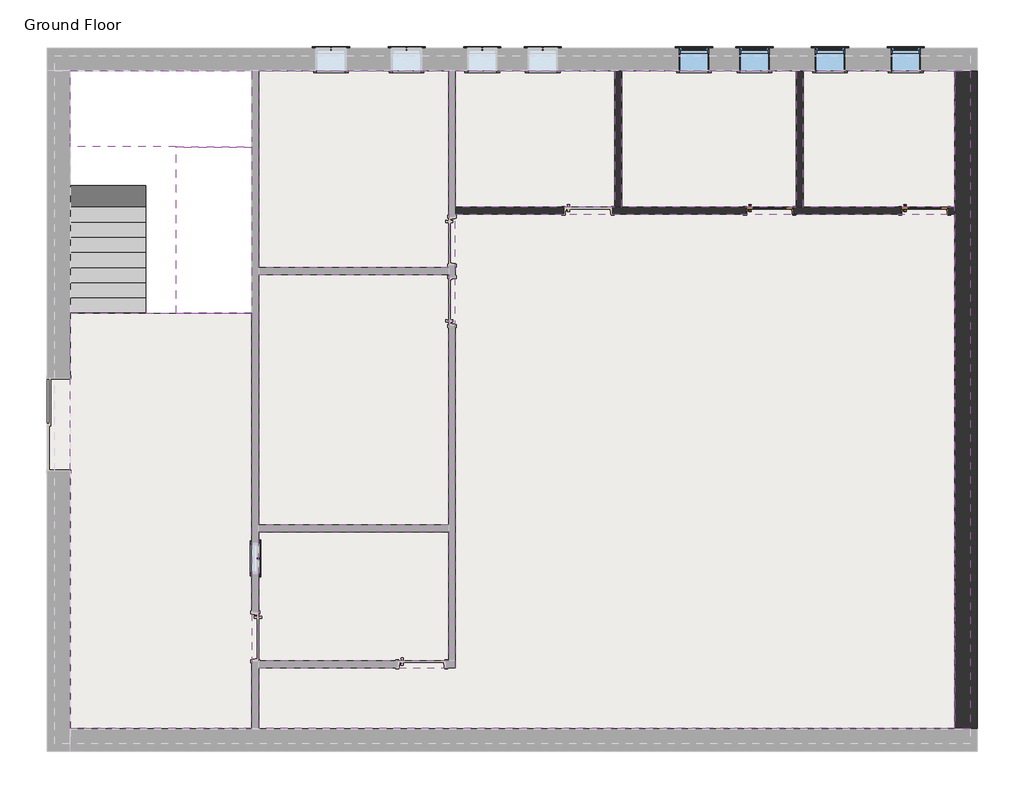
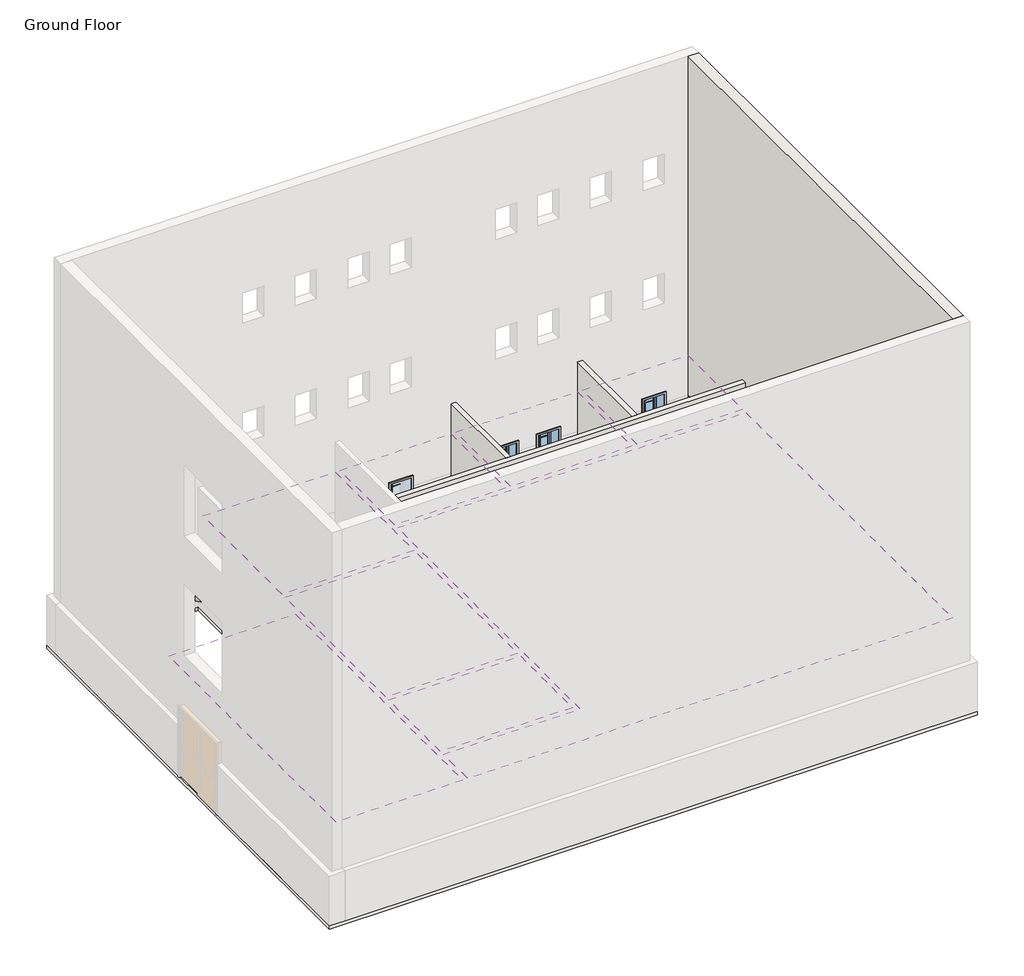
# One storey, part 2 of 2: 27 proxies, 8 coverings, 5 walls, 4 windows, 2 doors, 2 slabs, 2 stair flights.
"""IFC4 building model written with IfcOpenShell, lengths in millimetres."""

from ifc_helpers import new_model, si_unit, frame, origin, origin_with_axes, place, context, project, spatial, polyline, outline, extrude, faceted_brep, transform, mapped, element, save
from components import muntin_pattern_2x2_muntin_pattern_2x2_cf4092f1, muntin_pattern_2x2_muntin_pattern_2x2_49143b38, trim_window_exterior_flat_with_sill_a665a915, trim_window_exterior_flat_with_sill_4c72db77, trim_window_interior_flat_picture_frame_d485c387, trim_window_interior_flat_picture_frame_dfd23ff3, door_918c180d, window_1658a7ae

model = new_model("IFC4")

# Units and contexts
model_context = context("Model", 3, world=origin())
ifc_project = project(units=[si_unit("LENGTHUNIT", "METRE", prefix="MILLI")], contexts=[model_context])

# Site, building, storey
site = spatial("IfcSite", under=ifc_project)
building = spatial("IfcBuilding", under=site)
storey = spatial("IfcBuildingStorey", under=building, Name="Ground Floor", Elevation=0.0)

# Proxies
placement = place(None, origin())
muntin_pattern_2x2_muntin_pattern_2x2_shape = muntin_pattern_2x2_muntin_pattern_2x2_cf4092f1(model_context)
element("IfcBuildingElementProxy", 1, Name="Muntin Pattern_2x2 : Muntin Pattern_2x2", ObjectType="Muntin Pattern_2x2 : Muntin Pattern_2x2", at=placement, inside=storey, context=model_context, shape_type="MappedRepresentation", body=[
    mapped(muntin_pattern_2x2_muntin_pattern_2x2_shape, transform((-14168.6597136, 1858.8705992, 984.25), x_axis=(0.0, -1.0, 0.0), y_axis=(1.0, 0.0, 0.0), z_axis=(0.0, 0.0, 1.0))),
])
element("IfcBuildingElementProxy", 2, Name="Muntin Pattern_2x2 : Muntin Pattern_2x2", ObjectType="Muntin Pattern_2x2 : Muntin Pattern_2x2", at=placement, inside=storey, context=model_context, shape_type="MappedRepresentation", body=[
    mapped(muntin_pattern_2x2_muntin_pattern_2x2_shape, transform((-1122.5847136, 12134.7580992, 984.25), x_axis=(1.0, 0.0, 0.0), y_axis=(0.0, 1.0, 0.0), z_axis=(0.0, 0.0, 1.0))),
])
element("IfcBuildingElementProxy", 3, Name="Muntin Pattern_2x2 : Muntin Pattern_2x2", ObjectType="Muntin Pattern_2x2 : Muntin Pattern_2x2", at=placement, inside=storey, context=model_context, shape_type="MappedRepresentation", body=[
    mapped(muntin_pattern_2x2_muntin_pattern_2x2_shape, transform((-2646.5847136, 12134.7580992, 984.25), x_axis=(1.0, 0.0, 0.0), y_axis=(0.0, 1.0, 0.0), z_axis=(0.0, 0.0, 1.0))),
])
element("IfcBuildingElementProxy", 4, Name="Muntin Pattern_2x2 : Muntin Pattern_2x2", ObjectType="Muntin Pattern_2x2 : Muntin Pattern_2x2", at=placement, inside=storey, context=model_context, shape_type="MappedRepresentation", body=[
    mapped(muntin_pattern_2x2_muntin_pattern_2x2_shape, transform((-4170.5847136, 12134.7580992, 984.25), x_axis=(1.0, 0.0, 0.0), y_axis=(0.0, 1.0, 0.0), z_axis=(0.0, 0.0, 1.0))),
])
element("IfcBuildingElementProxy", 5, Name="Muntin Pattern_2x2 : Muntin Pattern_2x2", ObjectType="Muntin Pattern_2x2 : Muntin Pattern_2x2", at=placement, inside=storey, context=model_context, shape_type="MappedRepresentation", body=[
    mapped(muntin_pattern_2x2_muntin_pattern_2x2_shape, transform((-5389.7847136, 12134.7580992, 984.25), x_axis=(1.0, 0.0, 0.0), y_axis=(0.0, 1.0, 0.0), z_axis=(0.0, 0.0, 1.0))),
])
muntin_pattern_2x2_muntin_pattern_2x2_2_shape = muntin_pattern_2x2_muntin_pattern_2x2_49143b38(model_context)
element("IfcBuildingElementProxy", 6, Name="Muntin Pattern_2x2 : Muntin Pattern_2x2", ObjectType="Muntin Pattern_2x2 : Muntin Pattern_2x2", at=placement, inside=storey, context=model_context, shape_type="MappedRepresentation", body=[
    mapped(muntin_pattern_2x2_muntin_pattern_2x2_2_shape, transform((-12704.9847136, 12134.7580992, 984.25), x_axis=(-1.0, 0.0, 0.0), y_axis=(0.0, -1.0, 0.0), z_axis=(0.0, 0.0, 1.0))),
])
element("IfcBuildingElementProxy", 7, Name="Muntin Pattern_2x2 : Muntin Pattern_2x2", ObjectType="Muntin Pattern_2x2 : Muntin Pattern_2x2", at=placement, inside=storey, context=model_context, shape_type="MappedRepresentation", body=[
    mapped(muntin_pattern_2x2_muntin_pattern_2x2_2_shape, transform((-11180.9847136, 12134.7580992, 984.25), x_axis=(-1.0, 0.0, 0.0), y_axis=(0.0, -1.0, 0.0), z_axis=(0.0, 0.0, 1.0))),
])
element("IfcBuildingElementProxy", 8, Name="Muntin Pattern_2x2 : Muntin Pattern_2x2", ObjectType="Muntin Pattern_2x2 : Muntin Pattern_2x2", at=placement, inside=storey, context=model_context, shape_type="MappedRepresentation", body=[
    mapped(muntin_pattern_2x2_muntin_pattern_2x2_2_shape, transform((-9656.9847136, 12134.7580992, 984.25), x_axis=(-1.0, 0.0, 0.0), y_axis=(0.0, -1.0, 0.0), z_axis=(0.0, 0.0, 1.0))),
])
element("IfcBuildingElementProxy", 9, Name="Muntin Pattern_2x2 : Muntin Pattern_2x2", ObjectType="Muntin Pattern_2x2 : Muntin Pattern_2x2", at=placement, inside=storey, context=model_context, shape_type="MappedRepresentation", body=[
    mapped(muntin_pattern_2x2_muntin_pattern_2x2_2_shape, transform((-8437.7847136, 12134.7580992, 984.25), x_axis=(-1.0, 0.0, 0.0), y_axis=(0.0, -1.0, 0.0), z_axis=(0.0, 0.0, 1.0))),
])
trim_window_exterior_flat_with_sill_shape = trim_window_exterior_flat_with_sill_a665a915(model_context)
element("IfcBuildingElementProxy", 10, Name="Trim-Window-Exterior-Flat : with Sill", ObjectType="Trim-Window-Exterior-Flat : with Sill", at=placement, inside=storey, context=model_context, shape_type="MappedRepresentation", body=[
    mapped(trim_window_exterior_flat_with_sill_shape, transform((-14159.1347136, 1858.8705992, 1828.8), x_axis=(0.0, 1.0, 0.0), y_axis=(0.0, 0.0, 1.0), z_axis=(1.0, 0.0, 0.0))),
])
element("IfcBuildingElementProxy", 11, Name="Trim-Window-Exterior-Flat : with Sill", ObjectType="Trim-Window-Exterior-Flat : with Sill", at=placement, inside=storey, context=model_context, shape_type="MappedRepresentation", body=[
    mapped(trim_window_exterior_flat_with_sill_shape, transform((-1122.5847136, 12144.2830992, 1828.8), x_axis=(-1.0, 0.0, 0.0), y_axis=(0.0, 0.0, 1.0), z_axis=(0.0, 1.0, 0.0))),
])
element("IfcBuildingElementProxy", 12, Name="Trim-Window-Exterior-Flat : with Sill", ObjectType="Trim-Window-Exterior-Flat : with Sill", at=placement, inside=storey, context=model_context, shape_type="MappedRepresentation", body=[
    mapped(trim_window_exterior_flat_with_sill_shape, transform((-2646.5847136, 12144.2830992, 1828.8), x_axis=(-1.0, 0.0, 0.0), y_axis=(0.0, 0.0, 1.0), z_axis=(0.0, 1.0, 0.0))),
])
element("IfcBuildingElementProxy", 13, Name="Trim-Window-Exterior-Flat : with Sill", ObjectType="Trim-Window-Exterior-Flat : with Sill", at=placement, inside=storey, context=model_context, shape_type="MappedRepresentation", body=[
    mapped(trim_window_exterior_flat_with_sill_shape, transform((-4170.5847136, 12144.2830992, 1828.8), x_axis=(-1.0, 0.0, 0.0), y_axis=(0.0, 0.0, 1.0), z_axis=(0.0, 1.0, 0.0))),
])
element("IfcBuildingElementProxy", 14, Name="Trim-Window-Exterior-Flat : with Sill", ObjectType="Trim-Window-Exterior-Flat : with Sill", at=placement, inside=storey, context=model_context, shape_type="MappedRepresentation", body=[
    mapped(trim_window_exterior_flat_with_sill_shape, transform((-5389.7847136, 12144.2830992, 1828.8), x_axis=(-1.0, 0.0, 0.0), y_axis=(0.0, 0.0, 1.0), z_axis=(0.0, 1.0, 0.0))),
])
trim_window_exterior_flat_with_sill_2_shape = trim_window_exterior_flat_with_sill_4c72db77(model_context)
element("IfcBuildingElementProxy", 15, Name="Trim-Window-Exterior-Flat : with Sill", ObjectType="Trim-Window-Exterior-Flat : with Sill", at=placement, inside=storey, context=model_context, shape_type="MappedRepresentation", body=[
    mapped(trim_window_exterior_flat_with_sill_2_shape, transform((-12704.9847136, 12144.2830992, 1828.8), x_axis=(1.0, 0.0, 0.0), y_axis=(0.0, 0.0, -1.0), z_axis=(0.0, 1.0, 0.0))),
])
element("IfcBuildingElementProxy", 16, Name="Trim-Window-Exterior-Flat : with Sill", ObjectType="Trim-Window-Exterior-Flat : with Sill", at=placement, inside=storey, context=model_context, shape_type="MappedRepresentation", body=[
    mapped(trim_window_exterior_flat_with_sill_2_shape, transform((-11180.9847136, 12144.2830992, 1828.8), x_axis=(1.0, 0.0, 0.0), y_axis=(0.0, 0.0, -1.0), z_axis=(0.0, 1.0, 0.0))),
])
element("IfcBuildingElementProxy", 17, Name="Trim-Window-Exterior-Flat : with Sill", ObjectType="Trim-Window-Exterior-Flat : with Sill", at=placement, inside=storey, context=model_context, shape_type="MappedRepresentation", body=[
    mapped(trim_window_exterior_flat_with_sill_2_shape, transform((-9656.9847136, 12144.2830992, 1828.8), x_axis=(1.0, 0.0, 0.0), y_axis=(0.0, 0.0, -1.0), z_axis=(0.0, 1.0, 0.0))),
])
element("IfcBuildingElementProxy", 18, Name="Trim-Window-Exterior-Flat : with Sill", ObjectType="Trim-Window-Exterior-Flat : with Sill", at=placement, inside=storey, context=model_context, shape_type="MappedRepresentation", body=[
    mapped(trim_window_exterior_flat_with_sill_2_shape, transform((-8437.7847136, 12144.2830992, 1828.8), x_axis=(1.0, 0.0, 0.0), y_axis=(0.0, 0.0, -1.0), z_axis=(0.0, 1.0, 0.0))),
])
trim_window_interior_flat_picture_frame_shape = trim_window_interior_flat_picture_frame_d485c387(model_context)
element("IfcBuildingElementProxy", 19, Name="Trim-Window-Interior-Flat : Picture Frame", ObjectType="Trim-Window-Interior-Flat : Picture Frame", at=placement, inside=storey, context=model_context, shape_type="MappedRepresentation", body=[
    mapped(trim_window_interior_flat_picture_frame_shape, transform((-14298.8347136, 1858.8705992, 1828.8), x_axis=(0.0, -1.0, 0.0), y_axis=(0.0, 0.0, 1.0), z_axis=(-1.0, 0.0, 0.0))),
])
element("IfcBuildingElementProxy", 20, Name="Trim-Window-Interior-Flat : Picture Frame", ObjectType="Trim-Window-Interior-Flat : Picture Frame", at=placement, inside=storey, context=model_context, shape_type="MappedRepresentation", body=[
    mapped(trim_window_interior_flat_picture_frame_shape, transform((-1122.5847136, 11690.2580992, 1828.8), x_axis=(1.0, 0.0, 0.0), y_axis=(0.0, 0.0, 1.0), z_axis=(0.0, -1.0, 0.0))),
])
element("IfcBuildingElementProxy", 21, Name="Trim-Window-Interior-Flat : Picture Frame", ObjectType="Trim-Window-Interior-Flat : Picture Frame", at=placement, inside=storey, context=model_context, shape_type="MappedRepresentation", body=[
    mapped(trim_window_interior_flat_picture_frame_shape, transform((-2646.5847136, 11690.2580992, 1828.8), x_axis=(1.0, 0.0, 0.0), y_axis=(0.0, 0.0, 1.0), z_axis=(0.0, -1.0, 0.0))),
])
element("IfcBuildingElementProxy", 22, Name="Trim-Window-Interior-Flat : Picture Frame", ObjectType="Trim-Window-Interior-Flat : Picture Frame", at=placement, inside=storey, context=model_context, shape_type="MappedRepresentation", body=[
    mapped(trim_window_interior_flat_picture_frame_shape, transform((-4170.5847136, 11690.2580992, 1828.8), x_axis=(1.0, 0.0, 0.0), y_axis=(0.0, 0.0, 1.0), z_axis=(0.0, -1.0, 0.0))),
])
element("IfcBuildingElementProxy", 23, Name="Trim-Window-Interior-Flat : Picture Frame", ObjectType="Trim-Window-Interior-Flat : Picture Frame", at=placement, inside=storey, context=model_context, shape_type="MappedRepresentation", body=[
    mapped(trim_window_interior_flat_picture_frame_shape, transform((-5389.7847136, 11690.2580992, 1828.8), x_axis=(1.0, 0.0, 0.0), y_axis=(0.0, 0.0, 1.0), z_axis=(0.0, -1.0, 0.0))),
])
trim_window_interior_flat_picture_frame_2_shape = trim_window_interior_flat_picture_frame_dfd23ff3(model_context)
element("IfcBuildingElementProxy", 24, Name="Trim-Window-Interior-Flat : Picture Frame", ObjectType="Trim-Window-Interior-Flat : Picture Frame", at=placement, inside=storey, context=model_context, shape_type="MappedRepresentation", body=[
    mapped(trim_window_interior_flat_picture_frame_2_shape, transform((-12704.9847136, 11690.2580992, 1828.8), x_axis=(-1.0, 0.0, 0.0), y_axis=(0.0, 0.0, -1.0), z_axis=(0.0, -1.0, 0.0))),
])
element("IfcBuildingElementProxy", 25, Name="Trim-Window-Interior-Flat : Picture Frame", ObjectType="Trim-Window-Interior-Flat : Picture Frame", at=placement, inside=storey, context=model_context, shape_type="MappedRepresentation", body=[
    mapped(trim_window_interior_flat_picture_frame_2_shape, transform((-11180.9847136, 11690.2580992, 1828.8), x_axis=(-1.0, 0.0, 0.0), y_axis=(0.0, 0.0, -1.0), z_axis=(0.0, -1.0, 0.0))),
])
element("IfcBuildingElementProxy", 26, Name="Trim-Window-Interior-Flat : Picture Frame", ObjectType="Trim-Window-Interior-Flat : Picture Frame", at=placement, inside=storey, context=model_context, shape_type="MappedRepresentation", body=[
    mapped(trim_window_interior_flat_picture_frame_2_shape, transform((-9656.9847136, 11690.2580992, 1828.8), x_axis=(-1.0, 0.0, 0.0), y_axis=(0.0, 0.0, -1.0), z_axis=(0.0, -1.0, 0.0))),
])
element("IfcBuildingElementProxy", 27, Name="Trim-Window-Interior-Flat : Picture Frame", ObjectType="Trim-Window-Interior-Flat : Picture Frame", at=placement, inside=storey, context=model_context, shape_type="MappedRepresentation", body=[
    mapped(trim_window_interior_flat_picture_frame_2_shape, transform((-8437.7847136, 11690.2580992, 1828.8), x_axis=(-1.0, 0.0, 0.0), y_axis=(0.0, 0.0, -1.0), z_axis=(0.0, -1.0, 0.0))),
])

# Coverings
element("IfcCovering", 28, ObjectType="GWB on Mtl. Stud", at=placement, inside=storey, context=model_context, shape_type="SweptSolid", body=[
    extrude(outline(polyline([(-14298.8347136, -1571.7169008), (-17964.3722136, -1571.7169008), (-17964.3722136, 6811.8705992), (-14298.8347136, 6811.8705992), (-14298.8347136, -1571.7169008)])), frame((0.0, 0.0, 2743.2), z_axis=(0.0, 0.0, 1.0), x_axis=(1.0, 0.0, 0.0)), (0.0, 0.0, 1.0), 107.95),
])
element("IfcCovering", 29, ObjectType="GWB on Mtl. Stud", at=placement, inside=storey, context=model_context, shape_type="SweptSolid", body=[
    extrude(outline(polyline([(-14159.1347136, 7719.9205992), (-14159.1347136, 11690.2580992), (-10336.4347136, 11690.2580992), (-10336.4347136, 7719.9205992), (-14159.1347136, 7719.9205992)])), frame((0.0, 0.0, 2743.2), z_axis=(0.0, 0.0, 1.0), x_axis=(1.0, 0.0, 0.0)), (0.0, 0.0, 1.0), 107.95),
])
element("IfcCovering", 30, ObjectType="GWB on Mtl. Stud", at=placement, inside=storey, context=model_context, shape_type="SweptSolid", body=[
    extrude(outline(polyline([(-10336.4347136, 2538.3205992), (-14159.1347136, 2538.3205992), (-14159.1347136, 7580.2205992), (-10336.4347136, 7580.2205992), (-10336.4347136, 2538.3205992)])), frame((0.0, 0.0, 2743.2), z_axis=(0.0, 0.0, 1.0), x_axis=(1.0, 0.0, 0.0)), (0.0, 0.0, 1.0), 107.95),
])
element("IfcCovering", 31, ObjectType="GWB on Mtl. Stud", at=placement, inside=storey, context=model_context, shape_type="SweptSolid", body=[
    extrude(outline(polyline([(-10336.4347136, -204.8794008), (-14159.1347136, -204.8794008), (-14159.1347136, 2398.6205992), (-10336.4347136, 2398.6205992), (-10336.4347136, -204.8794008)])), frame((0.0, 0.0, 2743.2), z_axis=(0.0, 0.0, 1.0), x_axis=(1.0, 0.0, 0.0)), (0.0, 0.0, 1.0), 107.95),
])
element("IfcCovering", 32, ObjectType="GWB on Mtl. Stud", at=placement, inside=storey, context=model_context, shape_type="SweptSolid", body=[
    extrude(outline(polyline([(-10196.7347136, 11690.2580992), (-6983.6347136, 11690.2580992), (-6983.6347136, 8939.1205992), (-10196.7347136, 8939.1205992), (-10196.7347136, 11690.2580992)])), frame((0.0, 0.0, 2743.2), z_axis=(0.0, 0.0, 1.0), x_axis=(1.0, 0.0, 0.0)), (0.0, 0.0, 1.0), 107.95),
])
element("IfcCovering", 33, ObjectType="GWB on Mtl. Stud", at=placement, inside=storey, context=model_context, shape_type="SweptSolid", body=[
    extrude(outline(polyline([(-6843.9347136, 8939.1205992), (-6843.9347136, 11690.2580992), (-3326.0347136, 11690.2580992), (-3326.0347136, 8939.1205992), (-6843.9347136, 8939.1205992)])), frame((0.0, 0.0, 2743.2), z_axis=(0.0, 0.0, 1.0), x_axis=(1.0, 0.0, 0.0)), (0.0, 0.0, 1.0), 107.95),
])
element("IfcCovering", 34, ObjectType="GWB on Mtl. Stud", at=placement, inside=storey, context=model_context, shape_type="SweptSolid", body=[
    extrude(outline(polyline([(-3186.3347136, 8939.1205992), (-3186.3347136, 11690.2580992), (-130.3972136, 11690.2580992), (-130.3972136, 8939.1205992), (-3186.3347136, 8939.1205992)])), frame((0.0, 0.0, 2743.2), z_axis=(0.0, 0.0, 1.0), x_axis=(1.0, 0.0, 0.0)), (0.0, 0.0, 1.0), 107.95),
])
element("IfcCovering", 35, ObjectType="GWB on Mtl. Stud", at=placement, inside=storey, context=model_context, shape_type="SweptSolid", body=[
    extrude(outline(polyline([(-130.3972136, -1571.7169008), (-14159.1347136, -1571.7169008), (-14159.1347136, -344.5794008), (-10196.7347136, -344.5794008), (-10196.7347136, 8799.4205992), (-130.3972136, 8799.4205992), (-130.3972136, -1571.7169008)])), frame((0.0, 0.0, 2743.2), z_axis=(0.0, 0.0, 1.0), x_axis=(1.0, 0.0, 0.0)), (0.0, 0.0, 1.0), 107.95),
])

# Doors
door_shape = door_918c180d(model_context)
element("IfcDoor", 36, ObjectType="Door-Interior-Single-Full Glass-Wood : 36\" x 84\"", at=placement, inside=storey, context=model_context, shape_type="MappedRepresentation", body=[
    mapped(door_shape, transform((-3865.7847136, 8872.4455992, 0.0), x_axis=(1.0, 0.0, 0.0), y_axis=(0.0, 1.0, 0.0), z_axis=(0.0, 0.0, 1.0))),
])
element("IfcDoor", 37, ObjectType="Door-Interior-Single-Full Glass-Wood : 36\" x 84\"", at=placement, inside=storey, context=model_context, shape_type="MappedRepresentation", body=[
    mapped(door_shape, transform((-739.9972136, 8872.4455992, 0.0), x_axis=(1.0, 0.0, 0.0), y_axis=(0.0, 1.0, 0.0), z_axis=(0.0, 0.0, 1.0))),
])

# Slabs
element("IfcSlab", 38, ObjectType="7\" Thickness", at=placement, inside=storey, context=model_context, shape_type="Brep", body=[
    faceted_brep([(-16440.3722136, 10166.2580992, 1828.8), (-17964.3722136, 10166.2580992, 1828.8), (-17964.3722136, 10185.3080992, 1676.4), (-16440.3722136, 10185.3080992, 1676.4), (-15822.8347136, 10166.2580992, 1828.8), (-15822.8347136, 10164.6705992, 1828.8), (-15822.8347136, 10145.6205992, 1828.8), (-14298.8347136, 10145.6205992, 1828.8), (-14298.8347136, 10164.6705992, 1828.8), (-14298.8347136, 10359.2302826, 1828.8), (-14298.8347136, 11690.2580992, 1828.8), (-17964.3722136, 11690.2580992, 1828.8), (-17964.3722136, 10276.4984158, 1828.8), (-17964.3722136, 10185.3080992, 1605.4048417), (-16440.3722136, 10185.3080992, 1605.4048417), (-16440.3722136, 10185.3080992, 1651.0), (-16440.3722136, 10166.2580992, 1651.0), (-15822.8347136, 10166.2580992, 1651.0), (-15822.8347136, 10166.2580992, 1747.4860917), (-15822.8347136, 10164.6705992, 1748.2798417), (-15822.8347136, 10145.6205992, 1757.8048417), (-14298.8347136, 10145.6205992, 1757.8048417), (-14298.8347136, 10164.6705992, 1748.2798417), (-14298.8347136, 10359.2302826, 1651.0), (-14298.8347136, 11690.2580992, 1651.0), (-17964.3722136, 11690.2580992, 1651.0), (-17964.3722136, 10276.4984158, 1651.0), (-15822.8347136, 10359.2302826, 1651.0), (-16440.3722136, 10276.4984158, 1651.0)], [[[0, 1, 2, 3]], [[0, 4, 5, 6, 7, 8, 9, 10, 11, 12, 1]], [[3, 2, 13, 14, 15]], [[0, 3, 15, 16]], [[4, 0, 16, 17, 18]], [[5, 4, 18, 19]], [[6, 5, 19, 20]], [[7, 6, 20, 21]], [[8, 7, 21, 22]], [[8, 22, 23, 24, 10, 9]], [[11, 10, 24, 25]], [[2, 1, 12, 11, 25, 26, 13]], [[27, 17, 16, 15, 28, 26, 25, 24, 23]], [[17, 27, 18]], [[26, 28, 14, 13]], [[28, 15, 14]], [[27, 23, 22, 21, 20, 19, 18]]]),
])
element("IfcSlab", 39, ObjectType="LW Concrete on Metal Deck", at=placement, inside=storey, context=model_context, shape_type="SweptSolid", body=[
    extrude(outline(polyline([(323.6277864, 12144.2830992), (323.6277864, -2025.7419008), (-18418.3972136, -2025.7419008), (-18418.3972136, 12144.2830992), (323.6277864, 12144.2830992)]), holes=[polyline([(-14298.8347136, 11690.2580992), (-17964.3722136, 11690.2580992), (-17964.3722136, 6811.8705992), (-14298.8347136, 6811.8705992), (-14298.8347136, 11690.2580992)])]), frame((0.0, 0.0, -104.775), z_axis=(0.0, 0.0, 1.0), x_axis=(1.0, 0.0, 0.0)), (0.0, 0.0, 1.0), 104.775),
])

# Stair flights
element("IfcStairFlight", 40, ObjectType="3/4\" Nosing", at=placement, inside=storey, context=model_context, shape_type="Brep", body=[
    faceted_brep([(-16440.3722136, 6813.4580992, 152.4), (-17964.3722136, 6813.4580992, 152.4), (-17964.3722136, 6832.5080992, 0.0), (-16440.3722136, 6832.5080992, 0.0), (-16440.3722136, 7137.3080992, 152.4), (-17964.3722136, 7137.3080992, 152.4), (-17964.3722136, 7137.3080992, 81.4048417), (-17964.3722136, 6974.4984158, 0.0), (-16440.3722136, 6974.4984158, 0.0), (-16440.3722136, 7137.3080992, 81.4048417), (-17964.3722136, 7118.2580992, 304.8), (-16440.3722136, 7118.2580992, 304.8), (-16440.3722136, 7442.1080992, 304.8), (-17964.3722136, 7442.1080992, 304.8), (-17964.3722136, 7442.1080992, 233.8048417), (-16440.3722136, 7442.1080992, 233.8048417), (-17964.3722136, 7423.0580992, 457.2), (-16440.3722136, 7423.0580992, 457.2), (-16440.3722136, 7746.9080992, 457.2), (-17964.3722136, 7746.9080992, 457.2), (-17964.3722136, 7746.9080992, 386.2048417), (-16440.3722136, 7746.9080992, 386.2048417), (-17964.3722136, 7727.8580992, 609.6), (-16440.3722136, 7727.8580992, 609.6), (-16440.3722136, 8051.7080992, 609.6), (-17964.3722136, 8051.7080992, 609.6), (-17964.3722136, 8051.7080992, 538.6048417), (-16440.3722136, 8051.7080992, 538.6048417), (-17964.3722136, 8032.6580992, 762.0), (-16440.3722136, 8032.6580992, 762.0), (-16440.3722136, 8356.5080992, 762.0), (-17964.3722136, 8356.5080992, 762.0), (-17964.3722136, 8356.5080992, 691.0048417), (-16440.3722136, 8356.5080992, 691.0048417), (-17964.3722136, 8337.4580992, 914.4), (-16440.3722136, 8337.4580992, 914.4), (-16440.3722136, 8661.3080992, 914.4), (-17964.3722136, 8661.3080992, 914.4), (-17964.3722136, 8661.3080992, 843.4048417), (-16440.3722136, 8661.3080992, 843.4048417), (-17964.3722136, 8642.2580992, 1066.8), (-16440.3722136, 8642.2580992, 1066.8), (-16440.3722136, 8966.1080992, 1066.8), (-17964.3722136, 8966.1080992, 1066.8), (-17964.3722136, 8966.1080992, 995.8048417), (-16440.3722136, 8966.1080992, 995.8048417), (-17964.3722136, 8947.0580992, 1219.2), (-16440.3722136, 8947.0580992, 1219.2), (-16440.3722136, 9270.9080992, 1219.2), (-17964.3722136, 9270.9080992, 1219.2), (-17964.3722136, 9270.9080992, 1148.2048417), (-16440.3722136, 9270.9080992, 1148.2048417), (-17964.3722136, 9251.8580992, 1371.6), (-16440.3722136, 9251.8580992, 1371.6), (-16440.3722136, 9575.7080992, 1371.6), (-17964.3722136, 9575.7080992, 1371.6), (-17964.3722136, 9575.7080992, 1300.6048417), (-16440.3722136, 9575.7080992, 1300.6048417), (-17964.3722136, 9556.6580992, 1524.0), (-16440.3722136, 9556.6580992, 1524.0), (-16440.3722136, 9880.5080992, 1524.0), (-17964.3722136, 9880.5080992, 1524.0), (-17964.3722136, 9880.5080992, 1453.0048417), (-16440.3722136, 9880.5080992, 1453.0048417), (-17964.3722136, 10185.3080992, 1676.4), (-17964.3722136, 10166.2580992, 1676.4), (-17964.3722136, 9861.4580992, 1676.4), (-16440.3722136, 9861.4580992, 1676.4), (-16440.3722136, 10166.2580992, 1676.4), (-16440.3722136, 10185.3080992, 1676.4), (-17964.3722136, 10185.3080992, 1605.4048417), (-17964.3722136, 10166.2580992, 1595.8798417), (-16440.3722136, 10185.3080992, 1605.4048417), (-16440.3722136, 10185.3080992, 1651.0)], [[[0, 1, 2, 3]], [[1, 0, 4, 5]], [[1, 5, 6, 7, 2]], [[4, 0, 3, 8, 9]], [[10, 11, 12, 13]], [[10, 13, 14, 6, 5]], [[12, 11, 4, 9, 15]], [[5, 4, 11, 10]], [[16, 17, 18, 19]], [[16, 19, 20, 14, 13]], [[18, 17, 12, 15, 21]], [[13, 12, 17, 16]], [[22, 23, 24, 25]], [[22, 25, 26, 20, 19]], [[24, 23, 18, 21, 27]], [[19, 18, 23, 22]], [[28, 29, 30, 31]], [[28, 31, 32, 26, 25]], [[30, 29, 24, 27, 33]], [[25, 24, 29, 28]], [[34, 35, 36, 37]], [[34, 37, 38, 32, 31]], [[36, 35, 30, 33, 39]], [[31, 30, 35, 34]], [[40, 41, 42, 43]], [[40, 43, 44, 38, 37]], [[42, 41, 36, 39, 45]], [[37, 36, 41, 40]], [[46, 47, 48, 49]], [[46, 49, 50, 44, 43]], [[48, 47, 42, 45, 51]], [[43, 42, 47, 46]], [[52, 53, 54, 55]], [[52, 55, 56, 50, 49]], [[54, 53, 48, 51, 57]], [[49, 48, 53, 52]], [[58, 59, 60, 61]], [[58, 61, 62, 56, 55]], [[60, 59, 54, 57, 63]], [[55, 54, 59, 58]], [[64, 65, 66, 67, 68, 69]], [[65, 64, 70, 71]], [[67, 60, 63, 72, 73, 69, 68]], [[64, 69, 73, 72, 70]], [[61, 60, 67, 66]], [[3, 2, 7, 8]], [[8, 7, 6, 14, 20, 26, 32, 38, 44, 50, 56, 62, 71, 70, 72, 63, 57, 51, 45, 39, 33, 27, 21, 15, 9]], [[66, 65, 71, 62, 61]]]),
])
element("IfcStairFlight", 41, ObjectType="3/4\" Nosing", at=placement, inside=storey, context=model_context, shape_type="Brep", body=[
    faceted_brep([(-15822.8347136, 10164.6705992, 1981.2), (-14298.8347136, 10164.6705992, 1981.2), (-14298.8347136, 10145.6205992, 1828.8), (-15822.8347136, 10145.6205992, 1828.8), (-15822.8347136, 9840.8205992, 1981.2), (-14298.8347136, 9840.8205992, 1981.2), (-14298.8347136, 9840.8205992, 1910.2048417), (-14298.8347136, 10145.6205992, 1757.8048417), (-15822.8347136, 10145.6205992, 1757.8048417), (-15822.8347136, 9840.8205992, 1910.2048417), (-14298.8347136, 9859.8705992, 2133.6), (-15822.8347136, 9859.8705992, 2133.6), (-15822.8347136, 9536.0205992, 2133.6), (-14298.8347136, 9536.0205992, 2133.6), (-14298.8347136, 9536.0205992, 2062.6048417), (-15822.8347136, 9536.0205992, 2062.6048417), (-14298.8347136, 9555.0705992, 2286.0), (-15822.8347136, 9555.0705992, 2286.0), (-15822.8347136, 9231.2205992, 2286.0), (-14298.8347136, 9231.2205992, 2286.0), (-14298.8347136, 9231.2205992, 2215.0048417), (-15822.8347136, 9231.2205992, 2215.0048417), (-14298.8347136, 9250.2705992, 2438.4), (-15822.8347136, 9250.2705992, 2438.4), (-15822.8347136, 8926.4205992, 2438.4), (-14298.8347136, 8926.4205992, 2438.4), (-14298.8347136, 8926.4205992, 2367.4048417), (-15822.8347136, 8926.4205992, 2367.4048417), (-14298.8347136, 8945.4705992, 2590.8), (-15822.8347136, 8945.4705992, 2590.8), (-15822.8347136, 8621.6205992, 2590.8), (-14298.8347136, 8621.6205992, 2590.8), (-14298.8347136, 8621.6205992, 2519.8048417), (-15822.8347136, 8621.6205992, 2519.8048417), (-14298.8347136, 8640.6705992, 2743.2), (-15822.8347136, 8640.6705992, 2743.2), (-15822.8347136, 8316.8205992, 2743.2), (-14298.8347136, 8316.8205992, 2743.2), (-14298.8347136, 8316.8205992, 2672.2048417), (-15822.8347136, 8316.8205992, 2672.2048417), (-14298.8347136, 8335.8705992, 2895.6), (-15822.8347136, 8335.8705992, 2895.6), (-15822.8347136, 8012.0205992, 2895.6), (-14298.8347136, 8012.0205992, 2895.6), (-14298.8347136, 8012.0205992, 2824.6048417), (-15822.8347136, 8012.0205992, 2824.6048417), (-14298.8347136, 8031.0705992, 3048.0), (-15822.8347136, 8031.0705992, 3048.0), (-15822.8347136, 7707.2205992, 3048.0), (-14298.8347136, 7707.2205992, 3048.0), (-14298.8347136, 7707.2205992, 2977.0048417), (-15822.8347136, 7707.2205992, 2977.0048417), (-14298.8347136, 7726.2705992, 3200.4), (-15822.8347136, 7726.2705992, 3200.4), (-15822.8347136, 7402.4205992, 3200.4), (-14298.8347136, 7402.4205992, 3200.4), (-14298.8347136, 7402.4205992, 3129.4048417), (-15822.8347136, 7402.4205992, 3129.4048417), (-14298.8347136, 7421.4705992, 3352.8), (-15822.8347136, 7421.4705992, 3352.8), (-15822.8347136, 7097.6205992, 3352.8), (-14298.8347136, 7097.6205992, 3352.8), (-14298.8347136, 7097.6205992, 3281.8048417), (-15822.8347136, 7097.6205992, 3281.8048417), (-14298.8347136, 7116.6705992, 3505.2), (-15822.8347136, 7116.6705992, 3505.2), (-15822.8347136, 6811.8705992, 3505.2), (-14298.8347136, 6811.8705992, 3505.2), (-14298.8347136, 6811.8705992, 3424.6798417), (-15822.8347136, 6811.8705992, 3424.6798417)], [[[0, 1, 2, 3]], [[1, 0, 4, 5]], [[1, 5, 6, 7, 2]], [[3, 2, 7, 8]], [[4, 0, 3, 8, 9]], [[10, 11, 12, 13]], [[10, 13, 14, 6, 5]], [[12, 11, 4, 9, 15]], [[11, 10, 5, 4]], [[16, 17, 18, 19]], [[16, 19, 20, 14, 13]], [[18, 17, 12, 15, 21]], [[17, 16, 13, 12]], [[22, 23, 24, 25]], [[22, 25, 26, 20, 19]], [[24, 23, 18, 21, 27]], [[23, 22, 19, 18]], [[28, 29, 30, 31]], [[28, 31, 32, 26, 25]], [[30, 29, 24, 27, 33]], [[29, 28, 25, 24]], [[34, 35, 36, 37]], [[34, 37, 38, 32, 31]], [[36, 35, 30, 33, 39]], [[35, 34, 31, 30]], [[40, 41, 42, 43]], [[40, 43, 44, 38, 37]], [[42, 41, 36, 39, 45]], [[41, 40, 37, 36]], [[46, 47, 48, 49]], [[46, 49, 50, 44, 43]], [[48, 47, 42, 45, 51]], [[47, 46, 43, 42]], [[52, 53, 54, 55]], [[52, 55, 56, 50, 49]], [[54, 53, 48, 51, 57]], [[53, 52, 49, 48]], [[58, 59, 60, 61]], [[58, 61, 62, 56, 55]], [[60, 59, 54, 57, 63]], [[59, 58, 55, 54]], [[64, 65, 66, 67]], [[64, 67, 68, 62, 61]], [[66, 65, 60, 63, 69]], [[67, 66, 69, 68]], [[65, 64, 61, 60]], [[7, 6, 14, 20, 26, 32, 38, 44, 50, 56, 62, 68, 69, 63, 57, 51, 45, 39, 33, 27, 21, 15, 9, 8]]]),
])

# Walls
element("IfcWall", 42, ObjectType="Exterior - CMU on Mtl. Stud", at=placement, inside=storey, context=model_context, shape_type="Brep", body=[
    faceted_brep([(-130.3972136, 11690.2580992, 0.0), (-130.3972136, 8939.1205992, 0.0), (-130.3972136, 8799.4205992, 0.0), (-130.3972136, -1571.7169008, 0.0), (-130.3972136, -1571.7169008, 1524.0), (-130.3972136, 11690.2580992, 1524.0), (323.6277864, 11690.2580992, 0.0), (323.6277864, 11690.2580992, 1524.0), (323.6277864, -1571.7169008, 1524.0), (323.6277864, -1571.7169008, 0.0), (180.7527864, -1571.7169008, 1524.0), (180.7527864, 11690.2580992, 1524.0)], [[[0, 1, 2, 3, 4, 5]], [[6, 7, 8, 9]], [[3, 2, 1, 0, 6, 9]], [[5, 4, 10, 8, 7, 11]], [[0, 5, 11, 7, 6]], [[4, 3, 9, 8, 10]]]),
])
element("IfcWall", 43, ObjectType="Exterior - EIFS on Mtl. Stud", at=placement, inside=storey, context=model_context, shape_type="SweptSolid", body=[
    extrude(outline(polyline([(-130.3972136, -1571.7169008), (-130.3972136, 11690.2580992), (180.7527864, 11690.2580992), (180.7527864, -1571.7169008), (-130.3972136, -1571.7169008)])), frame((0.0, 0.0, 1524.0), z_axis=(0.0, 0.0, 1.0), x_axis=(1.0, 0.0, 0.0)), (0.0, 0.0, 1.0), 10363.2),
])
element("IfcWall", 44, ObjectType="Interior - 5 1/2\" Partition (1-hr)", at=placement, inside=storey, context=model_context, shape_type="Brep", body=[
    faceted_brep([(-10196.7347136, 8939.1205992, 3657.6), (-6983.6347136, 8939.1205992, 3657.6), (-6843.9347136, 8939.1205992, 3657.6), (-3326.0347136, 8939.1205992, 3657.6), (-3186.3347136, 8939.1205992, 3657.6), (-130.3972136, 8939.1205992, 3657.6), (-130.3972136, 8939.1205992, 0.0), (-257.3972136, 8939.1205992, 0.0), (-257.3972136, 8939.1205992, 2159.0), (-1222.5972136, 8939.1205992, 2159.0), (-1222.5972136, 8939.1205992, 0.0), (-3186.3347136, 8939.1205992, 0.0), (-3326.0347136, 8939.1205992, 0.0), (-3383.1847136, 8939.1205992, 0.0), (-3383.1847136, 8939.1205992, 2159.0), (-4348.3847136, 8939.1205992, 2159.0), (-4348.3847136, 8939.1205992, 0.0), (-6843.9347136, 8939.1205992, 0.0), (-6983.6347136, 8939.1205992, 0.0), (-7040.7847136, 8939.1205992, 0.0), (-7040.7847136, 8939.1205992, 2159.0), (-8005.9847136, 8939.1205992, 2159.0), (-8005.9847136, 8939.1205992, 0.0), (-10196.7347136, 8939.1205992, 0.0), (-130.3972136, 8799.4205992, 3657.6), (-10196.7347136, 8799.4205992, 3657.6), (-10196.7347136, 8799.4205992, 0.0), (-8005.9847136, 8799.4205992, 0.0), (-8005.9847136, 8799.4205992, 2159.0), (-7040.7847136, 8799.4205992, 2159.0), (-7040.7847136, 8799.4205992, 0.0), (-4348.3847136, 8799.4205992, 0.0), (-4348.3847136, 8799.4205992, 2159.0), (-3383.1847136, 8799.4205992, 2159.0), (-3383.1847136, 8799.4205992, 0.0), (-1222.5972136, 8799.4205992, 0.0), (-1222.5972136, 8799.4205992, 2159.0), (-257.3972136, 8799.4205992, 2159.0), (-257.3972136, 8799.4205992, 0.0), (-130.3972136, 8799.4205992, 0.0)], [[[0, 1, 2, 3, 4, 5, 6, 7, 8, 9, 10, 11, 12, 13, 14, 15, 16, 17, 18, 19, 20, 21, 22, 23]], [[24, 25, 26, 27, 28, 29, 30, 31, 32, 33, 34, 35, 36, 37, 38, 39]], [[6, 39, 38, 7]], [[26, 23, 22, 27]], [[30, 19, 18, 17, 16, 31]], [[34, 13, 12, 11, 10, 35]], [[5, 4, 3, 2, 1, 0, 25, 24]], [[39, 6, 5, 24]], [[0, 23, 26, 25]], [[29, 20, 19, 30]], [[20, 29, 28, 21]], [[21, 28, 27, 22]], [[33, 14, 13, 34]], [[14, 33, 32, 15]], [[15, 32, 31, 16]], [[37, 8, 7, 38]], [[8, 37, 36, 9]], [[9, 36, 35, 10]]]),
])
element("IfcWall", 45, ObjectType="Interior - 5 1/2\" Partition (1-hr)", at=placement, inside=storey, context=model_context, shape_type="SweptSolid", body=[
    extrude(outline(polyline([(-3326.0347136, 8939.1205992), (-3326.0347136, 11690.2580992), (-3186.3347136, 11690.2580992), (-3186.3347136, 8939.1205992), (-3326.0347136, 8939.1205992)])), origin_with_axes(), (0.0, 0.0, 1.0), 3657.6),
])
element("IfcWall", 46, ObjectType="Interior - 5 1/2\" Partition (1-hr)", at=placement, inside=storey, context=model_context, shape_type="SweptSolid", body=[
    extrude(outline(polyline([(-6983.6347136, 8939.1205992), (-6983.6347136, 11690.2580992), (-6843.9347136, 11690.2580992), (-6843.9347136, 8939.1205992), (-6983.6347136, 8939.1205992)])), origin_with_axes(), (0.0, 0.0, 1.0), 3657.6),
])

# Windows
window_shape = window_1658a7ae(model_context)
element("IfcWindow", 47, ObjectType="Window-Awning-Single : 24\" x 36\"", at=placement, inside=storey, context=model_context, shape_type="MappedRepresentation", body=[
    mapped(window_shape, transform((-1122.5847136, 11917.2705992, 0.0), x_axis=(1.0, 0.0, 0.0), y_axis=(0.0, 1.0, 0.0), z_axis=(0.0, 0.0, 1.0))),
])
element("IfcWindow", 48, ObjectType="Window-Awning-Single : 24\" x 36\"", at=placement, inside=storey, context=model_context, shape_type="MappedRepresentation", body=[
    mapped(window_shape, transform((-2646.5847136, 11917.2705992, 0.0), x_axis=(1.0, 0.0, 0.0), y_axis=(0.0, 1.0, 0.0), z_axis=(0.0, 0.0, 1.0))),
])
element("IfcWindow", 49, ObjectType="Window-Awning-Single : 24\" x 36\"", at=placement, inside=storey, context=model_context, shape_type="MappedRepresentation", body=[
    mapped(window_shape, transform((-4170.5847136, 11917.2705992, 0.0), x_axis=(1.0, 0.0, 0.0), y_axis=(0.0, 1.0, 0.0), z_axis=(0.0, 0.0, 1.0))),
])
element("IfcWindow", 50, ObjectType="Window-Awning-Single : 24\" x 36\"", at=placement, inside=storey, context=model_context, shape_type="MappedRepresentation", body=[
    mapped(window_shape, transform((-5389.7847136, 11917.2705992, 0.0), x_axis=(1.0, 0.0, 0.0), y_axis=(0.0, 1.0, 0.0), z_axis=(0.0, 0.0, 1.0))),
])

save(model, "model.ifc")
